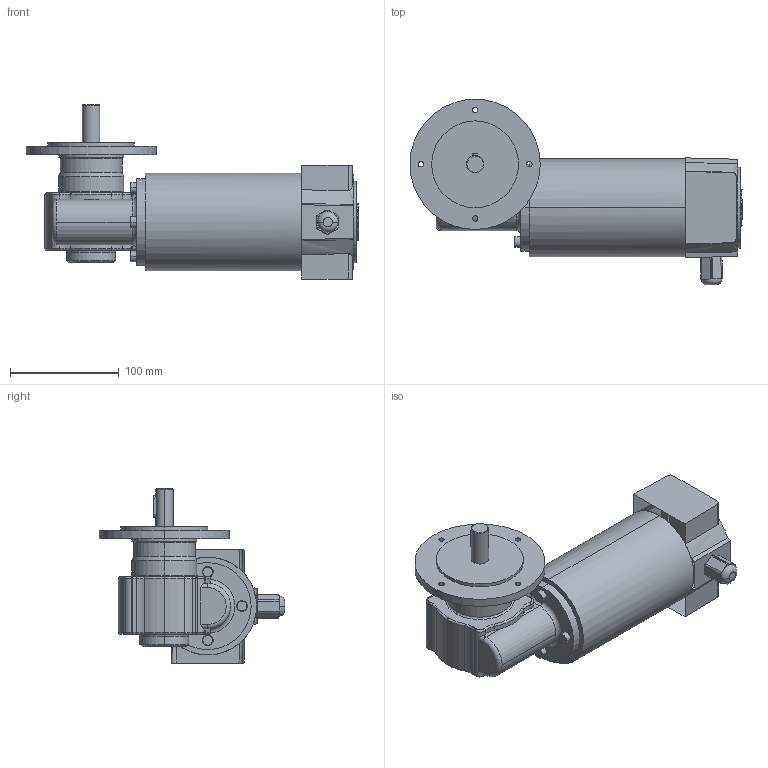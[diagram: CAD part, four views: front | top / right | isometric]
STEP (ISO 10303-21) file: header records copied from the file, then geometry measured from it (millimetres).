
FILE_DESCRIPTION(('OneSpaceDesigner STEP Export'),'2;1');
FILE_NAME('EPG23_GF140.stp','2008-07-15T10:10:46',(''),(''),'OneSpace Designer STEP processor (Jan. 2003) for AP214(CD)(Solid Model)','OneSpace Designer 12.01D 09-Jul-2004 (C) CoCreate Software GmbH','');
FILE_SCHEMA(('AUTOMOTIVE_DESIGN_CC2 {1 2 10303 214 -1 1 5 1}'));
Length unit declared in the file: millimetre
Products named in the file (2): EPG23_GF140
Assembly tree (1 placements, depth 2):
  EPG23_GF140
    EPG23_GF140
Bounding box: 306 x 170.99 x 160.5 mm (x, y, z)
Volume: 1965520.9 mm3; surface area: 135915.4 mm2
Topology: 1 solids, 1 shells, 214 faces, 515 edges, 318 vertices
Faces by surface type: cylinder 91, torus 62, plane 46, cone 12, bspline 3
Entity records: 8783 total; most frequent: CARTESIAN_POINT 4167, ORIENTED_EDGE 1030, DIRECTION 862, EDGE_CURVE 515, AXIS2_PLACEMENT_3D 351, VERTEX_POINT 318, EDGE_LOOP 237, FACE_OUTER_BOUND 214
